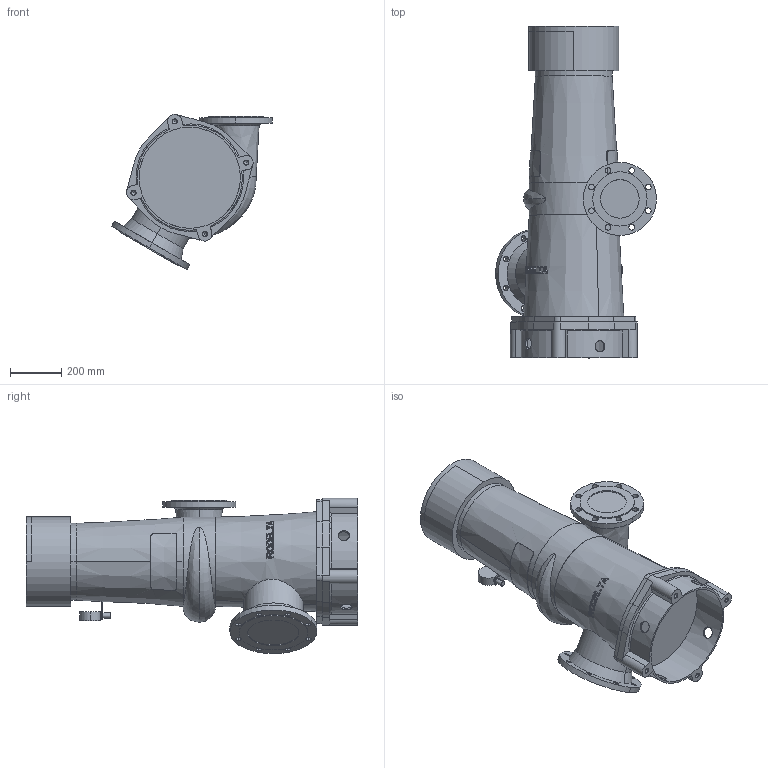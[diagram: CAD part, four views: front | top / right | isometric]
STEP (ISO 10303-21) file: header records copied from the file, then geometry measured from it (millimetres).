
FILE_DESCRIPTION((''),'2;1');
FILE_NAME('7310_ASM','2024-07-23T',('Lyritlocal'),(''),'PRO/ENGINEER BY PARAMETRIC TECHNOLOGY CORPORATION, 2016360','PRO/ENGINEER BY PARAMETRIC TECHNOLOGY CORPORATION, 2016360','');
FILE_SCHEMA(('CONFIG_CONTROL_DESIGN'));
Length unit declared in the file: millimetre
Products named in the file (3): 7310_VOET; 7310; 7310_ASM
Assembly tree (2 placements, depth 2):
  7310_ASM
    7310_VOET
    7310
Bounding box: 627.72 x 1295 x 605.81 mm (x, y, z)
Volume: 130921154 mm3; surface area: 2758235.8 mm2
Topology: 2 solids, 6 shells, 520 faces, 1400 edges, 927 vertices
Faces by surface type: plane 343, cylinder 129, cone 38, bspline 6, torus 4
Entity records: 18158 total; most frequent: CARTESIAN_POINT 5526, ORIENTED_EDGE 2768, DIRECTION 2357, EDGE_CURVE 1392, VERTEX_POINT 927, AXIS2_PLACEMENT_3D 912, EDGE_LOOP 611, VECTOR 533
